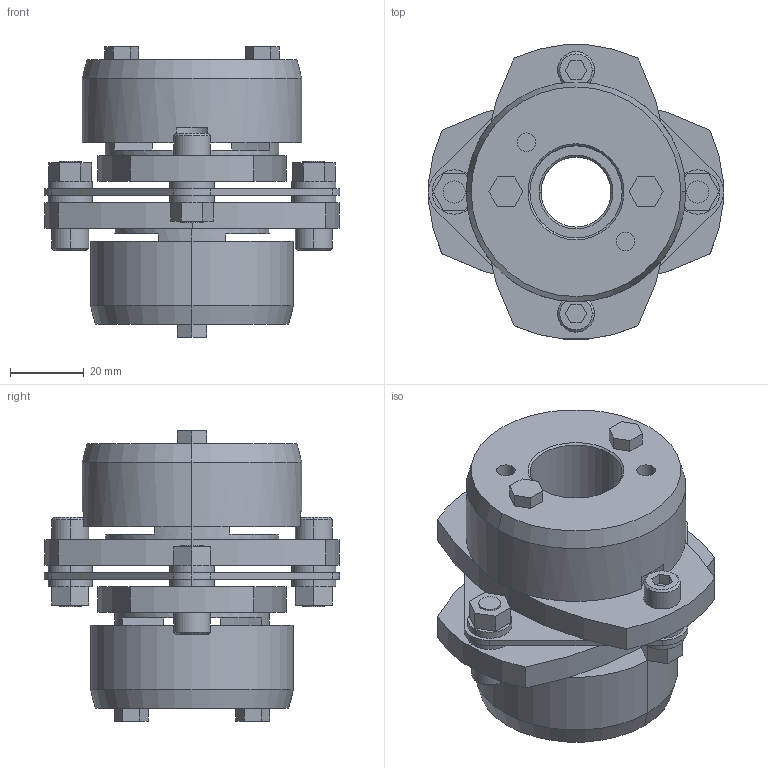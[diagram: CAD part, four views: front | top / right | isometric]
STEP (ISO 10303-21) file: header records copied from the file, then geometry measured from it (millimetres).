
FILE_DESCRIPTION((''),'2;1');
FILE_NAME('LCS-80T7-19×25.stp','2011-09-12T15:20:25',(''),(''),'AutoCAD STEP 2000i','AutoCAD 2000i',', , ');
FILE_SCHEMA(('CONFIG_CONTROL_DESIGN'));
Length unit declared in the file: millimetre
Products named in the file (9): LCS-80T7-19×24; 忣兜1; LC80T7-T024; LC80T7-T022; LC80T7-T019-1; LC80T7-T019; LC80T7-T017-1; LC80T7-T017; LCS80-ITA
Assembly tree (8 placements, depth 2):
  LCS-80T7-19×24
    忣兜1
    LC80T7-T024
    LC80T7-T022
    LC80T7-T019-1
    LC80T7-T019
    LC80T7-T017-1
    LC80T7-T017
    LCS80-ITA
Bounding box: 80 x 79.95 x 78.75 mm (x, y, z)
Volume: 155377.9 mm3; surface area: 43312.4 mm2
Topology: 1 solids, 1 shells, 222 faces, 544 edges, 356 vertices
Faces by surface type: plane 120, cylinder 82, cone 20
Entity records: 6815 total; most frequent: DIRECTION 1210, CARTESIAN_POINT 1131, ORIENTED_EDGE 1088, EDGE_CURVE 544, AXIS2_PLACEMENT_3D 435, VERTEX_POINT 356, VECTOR 340, LINE 340
